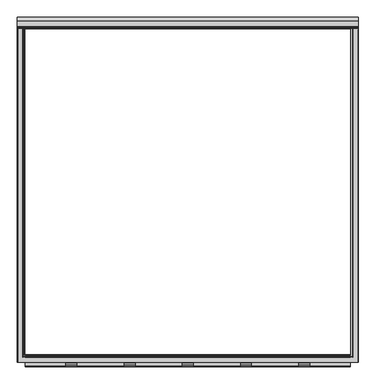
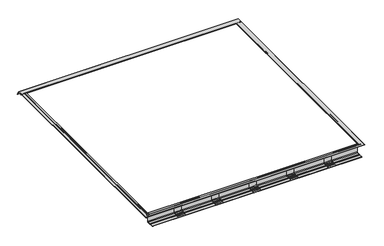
"""IFC4 building model written with IfcOpenShell, lengths in millimetres: fastener geometry."""

from ifc_helpers import new_model, si_unit, point, frame, frame_2d, origin, place, context, project, spatial, polyline, circle_curve, ellipse_curve, trimmed, segment, composite_curve, outline, extrude, source, transform, mapped, element, save
from ifc_brep_helpers import plane_surface, cylinder_surface, revolved_surface, advanced_brep


def fastener_0c583152(model_context):
    return source(origin(), model_context, "Body", "SolidModel", [
        extrude(outline(composite_curve([segment(trimmed(circle_curve(frame_2d((-1145.5700599, -106.5625171)), 7.5509517), [point((-1138.0191082, -106.5625171))], [point((-1145.5700599, -114.1134688))], False, "CARTESIAN"), True, "CONTINUOUS"), segment(polyline([(-1145.5700599, -114.1134688), (-1177.5500422, -114.1134688)]), True, "CONTINUOUS"), segment(trimmed(circle_curve(frame_2d((-1177.2863618, -113.0574024)), 1.0884868), [point((-1177.5500422, -114.1134688))], [point((-1178.0560382, -112.2877259))], False, "CARTESIAN"), True, "CONTINUOUS"), segment(polyline([(-1178.0560382, -112.2877259), (-1176.7465916, -110.9782793)]), True, "CONTINUOUS"), segment(trimmed(circle_curve(frame_2d((-1177.516268, -110.2086029)), 1.0884868), [point((-1176.7465916, -110.9782793))], [point((-1176.911598, -109.3035184))], True, "CARTESIAN"), True, "CONTINUOUS"), segment(polyline([(-1176.911598, -109.3035184), (-1186.4250513, -109.3035184)]), True, "CONTINUOUS"), segment(trimmed(circle_curve(frame_2d((-1185.8203813, -110.2086029)), 1.0884868), [point((-1186.4250513, -109.3035184))], [point((-1186.5900578, -110.9782793))], True, "CARTESIAN"), True, "CONTINUOUS"), segment(polyline([(-1186.5900578, -110.9782793), (-1185.2806111, -112.2877259)]), True, "CONTINUOUS"), segment(trimmed(circle_curve(frame_2d((-1186.0502876, -113.0574024)), 1.0884868), [point((-1185.2806111, -112.2877259))], [point((-1185.7866071, -114.1134688))], False, "CARTESIAN"), True, "CONTINUOUS"), segment(polyline([(-1185.7866071, -114.1134688), (-1219.2, -114.1134688)]), True, "CONTINUOUS"), segment(trimmed(circle_curve(frame_2d((-1211.6858077, -113.381073)), 7.5498006), [point((-1219.2, -114.1134688))], [point((-1211.6858077, -105.8312724))], False, "CARTESIAN"), True, "CONTINUOUS"), segment(polyline([(-1211.6858077, -105.8312724), (-1195.9627839, -105.8312724)]), True, "CONTINUOUS"), segment(trimmed(circle_curve(frame_2d((-1195.8562589, -101.8549)), 3.977799), [point((-1195.9627839, -105.8312724))], [point((-1193.0435303, -104.6676287))], True, "CARTESIAN"), True, "CONTINUOUS"), segment(polyline([(-1193.0435303, -104.6676287), (-1190.9210407, -102.5451392)]), True, "CONTINUOUS"), segment(trimmed(circle_curve(frame_2d((-1188.1083121, -105.3578678)), 3.977799), [point((-1190.9210407, -102.5451392))], [point((-1188.0183247, -101.3810868))], False, "CARTESIAN"), True, "CONTINUOUS"), segment(polyline([(-1188.0183247, -101.3810868), (-1175.3183247, -101.3810868)]), True, "CONTINUOUS"), segment(trimmed(circle_curve(frame_2d((-1175.2283372, -105.3578678)), 3.977799), [point((-1175.3183247, -101.3810868))], [point((-1172.4156086, -102.5451392))], False, "CARTESIAN"), True, "CONTINUOUS"), segment(polyline([(-1172.4156086, -102.5451392), (-1170.2931191, -104.6676287)]), True, "CONTINUOUS"), segment(trimmed(circle_curve(frame_2d((-1167.4803904, -101.8549)), 3.977799), [point((-1170.2931191, -104.6676287))], [point((-1167.3738655, -105.8312724))], True, "CARTESIAN"), True, "CONTINUOUS"), segment(polyline([(-1167.3738655, -105.8312724), (-1150.9842926, -105.8312724)]), True, "CONTINUOUS"), segment(trimmed(circle_curve(frame_2d((-1150.2040874, -100.0486898)), 5.8349791), [point((-1150.9842926, -105.8312724))], [point((-1144.3691082, -100.0486898))], True, "CARTESIAN"), True, "CONTINUOUS"), segment(polyline([(-1144.3691082, -100.0486898), (-1144.3691082, -41.4750171), (-1138.0191082, -41.4750171), (-1138.0191082, -106.5625171)]), True, "CONTINUOUS")], self_intersect=False)), frame((774.7, 0.0, 0.0), z_axis=(1.0, 0.0, 0.0), x_axis=(0.0, 1.0, 0.0)), (0.0, 0.0, 1.0), 76.2),
        extrude(outline(composite_curve([segment(trimmed(circle_curve(frame_2d((-1145.5700599, -106.5625171)), 7.5509517), [point((-1138.0191082, -106.5625171))], [point((-1145.5700599, -114.1134688))], False, "CARTESIAN"), True, "CONTINUOUS"), segment(polyline([(-1145.5700599, -114.1134688), (-1177.5500422, -114.1134688)]), True, "CONTINUOUS"), segment(trimmed(circle_curve(frame_2d((-1177.2863618, -113.0574024)), 1.0884868), [point((-1177.5500422, -114.1134688))], [point((-1178.0560382, -112.2877259))], False, "CARTESIAN"), True, "CONTINUOUS"), segment(polyline([(-1178.0560382, -112.2877259), (-1176.7465916, -110.9782793)]), True, "CONTINUOUS"), segment(trimmed(circle_curve(frame_2d((-1177.516268, -110.2086029)), 1.0884868), [point((-1176.7465916, -110.9782793))], [point((-1176.911598, -109.3035184))], True, "CARTESIAN"), True, "CONTINUOUS"), segment(polyline([(-1176.911598, -109.3035184), (-1186.4250513, -109.3035184)]), True, "CONTINUOUS"), segment(trimmed(circle_curve(frame_2d((-1185.8203813, -110.2086029)), 1.0884868), [point((-1186.4250513, -109.3035184))], [point((-1186.5900578, -110.9782793))], True, "CARTESIAN"), True, "CONTINUOUS"), segment(polyline([(-1186.5900578, -110.9782793), (-1185.2806111, -112.2877259)]), True, "CONTINUOUS"), segment(trimmed(circle_curve(frame_2d((-1186.0502876, -113.0574024)), 1.0884868), [point((-1185.2806111, -112.2877259))], [point((-1185.7866071, -114.1134688))], False, "CARTESIAN"), True, "CONTINUOUS"), segment(polyline([(-1185.7866071, -114.1134688), (-1219.2, -114.1134688)]), True, "CONTINUOUS"), segment(trimmed(circle_curve(frame_2d((-1211.6858077, -113.381073)), 7.5498006), [point((-1219.2, -114.1134688))], [point((-1211.6858077, -105.8312724))], False, "CARTESIAN"), True, "CONTINUOUS"), segment(polyline([(-1211.6858077, -105.8312724), (-1195.9627839, -105.8312724)]), True, "CONTINUOUS"), segment(trimmed(circle_curve(frame_2d((-1195.8562589, -101.8549)), 3.977799), [point((-1195.9627839, -105.8312724))], [point((-1193.0435303, -104.6676287))], True, "CARTESIAN"), True, "CONTINUOUS"), segment(polyline([(-1193.0435303, -104.6676287), (-1190.9210407, -102.5451392)]), True, "CONTINUOUS"), segment(trimmed(circle_curve(frame_2d((-1188.1083121, -105.3578678)), 3.977799), [point((-1190.9210407, -102.5451392))], [point((-1188.0183247, -101.3810868))], False, "CARTESIAN"), True, "CONTINUOUS"), segment(polyline([(-1188.0183247, -101.3810868), (-1175.3183247, -101.3810868)]), True, "CONTINUOUS"), segment(trimmed(circle_curve(frame_2d((-1175.2283372, -105.3578678)), 3.977799), [point((-1175.3183247, -101.3810868))], [point((-1172.4156086, -102.5451392))], False, "CARTESIAN"), True, "CONTINUOUS"), segment(polyline([(-1172.4156086, -102.5451392), (-1170.2931191, -104.6676287)]), True, "CONTINUOUS"), segment(trimmed(circle_curve(frame_2d((-1167.4803904, -101.8549)), 3.977799), [point((-1170.2931191, -104.6676287))], [point((-1167.3738655, -105.8312724))], True, "CARTESIAN"), True, "CONTINUOUS"), segment(polyline([(-1167.3738655, -105.8312724), (-1150.9842926, -105.8312724)]), True, "CONTINUOUS"), segment(trimmed(circle_curve(frame_2d((-1150.2040874, -100.0486898)), 5.8349791), [point((-1150.9842926, -105.8312724))], [point((-1144.3691082, -100.0486898))], True, "CARTESIAN"), True, "CONTINUOUS"), segment(polyline([(-1144.3691082, -100.0486898), (-1144.3691082, -41.4750171), (-1138.0191082, -41.4750171), (-1138.0191082, -106.5625171)]), True, "CONTINUOUS")], self_intersect=False)), frame((-850.9, 0.0, 0.0), z_axis=(1.0, 0.0, 0.0), x_axis=(0.0, 1.0, 0.0)), (0.0, 0.0, 1.0), 76.2),
        extrude(outline(composite_curve([segment(trimmed(circle_curve(frame_2d((-1145.5700599, -106.5625171)), 7.5509517), [point((-1138.0191082, -106.5625171))], [point((-1145.5700599, -114.1134688))], False, "CARTESIAN"), True, "CONTINUOUS"), segment(polyline([(-1145.5700599, -114.1134688), (-1177.5500422, -114.1134688)]), True, "CONTINUOUS"), segment(trimmed(circle_curve(frame_2d((-1177.2863618, -113.0574024)), 1.0884868), [point((-1177.5500422, -114.1134688))], [point((-1178.0560382, -112.2877259))], False, "CARTESIAN"), True, "CONTINUOUS"), segment(polyline([(-1178.0560382, -112.2877259), (-1176.7465916, -110.9782793)]), True, "CONTINUOUS"), segment(trimmed(circle_curve(frame_2d((-1177.516268, -110.2086029)), 1.0884868), [point((-1176.7465916, -110.9782793))], [point((-1176.911598, -109.3035184))], True, "CARTESIAN"), True, "CONTINUOUS"), segment(polyline([(-1176.911598, -109.3035184), (-1186.4250513, -109.3035184)]), True, "CONTINUOUS"), segment(trimmed(circle_curve(frame_2d((-1185.8203813, -110.2086029)), 1.0884868), [point((-1186.4250513, -109.3035184))], [point((-1186.5900578, -110.9782793))], True, "CARTESIAN"), True, "CONTINUOUS"), segment(polyline([(-1186.5900578, -110.9782793), (-1185.2806111, -112.2877259)]), True, "CONTINUOUS"), segment(trimmed(circle_curve(frame_2d((-1186.0502876, -113.0574024)), 1.0884868), [point((-1185.2806111, -112.2877259))], [point((-1185.7866071, -114.1134688))], False, "CARTESIAN"), True, "CONTINUOUS"), segment(polyline([(-1185.7866071, -114.1134688), (-1219.2, -114.1134688)]), True, "CONTINUOUS"), segment(trimmed(circle_curve(frame_2d((-1211.6858077, -113.381073)), 7.5498006), [point((-1219.2, -114.1134688))], [point((-1211.6858077, -105.8312724))], False, "CARTESIAN"), True, "CONTINUOUS"), segment(polyline([(-1211.6858077, -105.8312724), (-1195.9627839, -105.8312724)]), True, "CONTINUOUS"), segment(trimmed(circle_curve(frame_2d((-1195.8562589, -101.8549)), 3.977799), [point((-1195.9627839, -105.8312724))], [point((-1193.0435303, -104.6676287))], True, "CARTESIAN"), True, "CONTINUOUS"), segment(polyline([(-1193.0435303, -104.6676287), (-1190.9210407, -102.5451392)]), True, "CONTINUOUS"), segment(trimmed(circle_curve(frame_2d((-1188.1083121, -105.3578678)), 3.977799), [point((-1190.9210407, -102.5451392))], [point((-1188.0183247, -101.3810868))], False, "CARTESIAN"), True, "CONTINUOUS"), segment(polyline([(-1188.0183247, -101.3810868), (-1175.3183247, -101.3810868)]), True, "CONTINUOUS"), segment(trimmed(circle_curve(frame_2d((-1175.2283372, -105.3578678)), 3.977799), [point((-1175.3183247, -101.3810868))], [point((-1172.4156086, -102.5451392))], False, "CARTESIAN"), True, "CONTINUOUS"), segment(polyline([(-1172.4156086, -102.5451392), (-1170.2931191, -104.6676287)]), True, "CONTINUOUS"), segment(trimmed(circle_curve(frame_2d((-1167.4803904, -101.8549)), 3.977799), [point((-1170.2931191, -104.6676287))], [point((-1167.3738655, -105.8312724))], True, "CARTESIAN"), True, "CONTINUOUS"), segment(polyline([(-1167.3738655, -105.8312724), (-1150.9842926, -105.8312724)]), True, "CONTINUOUS"), segment(trimmed(circle_curve(frame_2d((-1150.2040874, -100.0486898)), 5.8349791), [point((-1150.9842926, -105.8312724))], [point((-1144.3691082, -100.0486898))], True, "CARTESIAN"), True, "CONTINUOUS"), segment(polyline([(-1144.3691082, -100.0486898), (-1144.3691082, -41.4750171), (-1138.0191082, -41.4750171), (-1138.0191082, -106.5625171)]), True, "CONTINUOUS")], self_intersect=False)), frame((-444.5, 0.0, 0.0), z_axis=(1.0, 0.0, 0.0), x_axis=(0.0, 1.0, 0.0)), (0.0, 0.0, 1.0), 76.2),
        extrude(outline(composite_curve([segment(trimmed(circle_curve(frame_2d((-1145.5700599, -106.5625171)), 7.5509517), [point((-1138.0191082, -106.5625171))], [point((-1145.5700599, -114.1134688))], False, "CARTESIAN"), True, "CONTINUOUS"), segment(polyline([(-1145.5700599, -114.1134688), (-1177.5500422, -114.1134688)]), True, "CONTINUOUS"), segment(trimmed(circle_curve(frame_2d((-1177.2863618, -113.0574024)), 1.0884868), [point((-1177.5500422, -114.1134688))], [point((-1178.0560382, -112.2877259))], False, "CARTESIAN"), True, "CONTINUOUS"), segment(polyline([(-1178.0560382, -112.2877259), (-1176.7465916, -110.9782793)]), True, "CONTINUOUS"), segment(trimmed(circle_curve(frame_2d((-1177.516268, -110.2086029)), 1.0884868), [point((-1176.7465916, -110.9782793))], [point((-1176.911598, -109.3035184))], True, "CARTESIAN"), True, "CONTINUOUS"), segment(polyline([(-1176.911598, -109.3035184), (-1186.4250513, -109.3035184)]), True, "CONTINUOUS"), segment(trimmed(circle_curve(frame_2d((-1185.8203813, -110.2086029)), 1.0884868), [point((-1186.4250513, -109.3035184))], [point((-1186.5900578, -110.9782793))], True, "CARTESIAN"), True, "CONTINUOUS"), segment(polyline([(-1186.5900578, -110.9782793), (-1185.2806111, -112.2877259)]), True, "CONTINUOUS"), segment(trimmed(circle_curve(frame_2d((-1186.0502876, -113.0574024)), 1.0884868), [point((-1185.2806111, -112.2877259))], [point((-1185.7866071, -114.1134688))], False, "CARTESIAN"), True, "CONTINUOUS"), segment(polyline([(-1185.7866071, -114.1134688), (-1219.2, -114.1134688)]), True, "CONTINUOUS"), segment(trimmed(circle_curve(frame_2d((-1211.6858077, -113.381073)), 7.5498006), [point((-1219.2, -114.1134688))], [point((-1211.6858077, -105.8312724))], False, "CARTESIAN"), True, "CONTINUOUS"), segment(polyline([(-1211.6858077, -105.8312724), (-1195.9627839, -105.8312724)]), True, "CONTINUOUS"), segment(trimmed(circle_curve(frame_2d((-1195.8562589, -101.8549)), 3.977799), [point((-1195.9627839, -105.8312724))], [point((-1193.0435303, -104.6676287))], True, "CARTESIAN"), True, "CONTINUOUS"), segment(polyline([(-1193.0435303, -104.6676287), (-1190.9210407, -102.5451392)]), True, "CONTINUOUS"), segment(trimmed(circle_curve(frame_2d((-1188.1083121, -105.3578678)), 3.977799), [point((-1190.9210407, -102.5451392))], [point((-1188.0183247, -101.3810868))], False, "CARTESIAN"), True, "CONTINUOUS"), segment(polyline([(-1188.0183247, -101.3810868), (-1175.3183247, -101.3810868)]), True, "CONTINUOUS"), segment(trimmed(circle_curve(frame_2d((-1175.2283372, -105.3578678)), 3.977799), [point((-1175.3183247, -101.3810868))], [point((-1172.4156086, -102.5451392))], False, "CARTESIAN"), True, "CONTINUOUS"), segment(polyline([(-1172.4156086, -102.5451392), (-1170.2931191, -104.6676287)]), True, "CONTINUOUS"), segment(trimmed(circle_curve(frame_2d((-1167.4803904, -101.8549)), 3.977799), [point((-1170.2931191, -104.6676287))], [point((-1167.3738655, -105.8312724))], True, "CARTESIAN"), True, "CONTINUOUS"), segment(polyline([(-1167.3738655, -105.8312724), (-1150.9842926, -105.8312724)]), True, "CONTINUOUS"), segment(trimmed(circle_curve(frame_2d((-1150.2040874, -100.0486898)), 5.8349791), [point((-1150.9842926, -105.8312724))], [point((-1144.3691082, -100.0486898))], True, "CARTESIAN"), True, "CONTINUOUS"), segment(polyline([(-1144.3691082, -100.0486898), (-1144.3691082, -41.4750171), (-1138.0191082, -41.4750171), (-1138.0191082, -106.5625171)]), True, "CONTINUOUS")], self_intersect=False)), frame((368.3, 0.0, 0.0), z_axis=(1.0, 0.0, 0.0), x_axis=(0.0, 1.0, 0.0)), (0.0, 0.0, 1.0), 76.2),
        extrude(outline(composite_curve([segment(trimmed(circle_curve(frame_2d((-1145.5700599, -106.5625171)), 7.5509517), [point((-1138.0191082, -106.5625171))], [point((-1145.5700599, -114.1134688))], False, "CARTESIAN"), True, "CONTINUOUS"), segment(polyline([(-1145.5700599, -114.1134688), (-1177.5500422, -114.1134688)]), True, "CONTINUOUS"), segment(trimmed(circle_curve(frame_2d((-1177.2863618, -113.0574024)), 1.0884868), [point((-1177.5500422, -114.1134688))], [point((-1178.0560382, -112.2877259))], False, "CARTESIAN"), True, "CONTINUOUS"), segment(polyline([(-1178.0560382, -112.2877259), (-1176.7465916, -110.9782793)]), True, "CONTINUOUS"), segment(trimmed(circle_curve(frame_2d((-1177.516268, -110.2086029)), 1.0884868), [point((-1176.7465916, -110.9782793))], [point((-1176.911598, -109.3035184))], True, "CARTESIAN"), True, "CONTINUOUS"), segment(polyline([(-1176.911598, -109.3035184), (-1186.4250513, -109.3035184)]), True, "CONTINUOUS"), segment(trimmed(circle_curve(frame_2d((-1185.8203813, -110.2086029)), 1.0884868), [point((-1186.4250513, -109.3035184))], [point((-1186.5900578, -110.9782793))], True, "CARTESIAN"), True, "CONTINUOUS"), segment(polyline([(-1186.5900578, -110.9782793), (-1185.2806111, -112.2877259)]), True, "CONTINUOUS"), segment(trimmed(circle_curve(frame_2d((-1186.0502876, -113.0574024)), 1.0884868), [point((-1185.2806111, -112.2877259))], [point((-1185.7866071, -114.1134688))], False, "CARTESIAN"), True, "CONTINUOUS"), segment(polyline([(-1185.7866071, -114.1134688), (-1219.2, -114.1134688)]), True, "CONTINUOUS"), segment(trimmed(circle_curve(frame_2d((-1211.6858077, -113.381073)), 7.5498006), [point((-1219.2, -114.1134688))], [point((-1211.6858077, -105.8312724))], False, "CARTESIAN"), True, "CONTINUOUS"), segment(polyline([(-1211.6858077, -105.8312724), (-1195.9627839, -105.8312724)]), True, "CONTINUOUS"), segment(trimmed(circle_curve(frame_2d((-1195.8562589, -101.8549)), 3.977799), [point((-1195.9627839, -105.8312724))], [point((-1193.0435303, -104.6676287))], True, "CARTESIAN"), True, "CONTINUOUS"), segment(polyline([(-1193.0435303, -104.6676287), (-1190.9210407, -102.5451392)]), True, "CONTINUOUS"), segment(trimmed(circle_curve(frame_2d((-1188.1083121, -105.3578678)), 3.977799), [point((-1190.9210407, -102.5451392))], [point((-1188.0183247, -101.3810868))], False, "CARTESIAN"), True, "CONTINUOUS"), segment(polyline([(-1188.0183247, -101.3810868), (-1175.3183247, -101.3810868)]), True, "CONTINUOUS"), segment(trimmed(circle_curve(frame_2d((-1175.2283372, -105.3578678)), 3.977799), [point((-1175.3183247, -101.3810868))], [point((-1172.4156086, -102.5451392))], False, "CARTESIAN"), True, "CONTINUOUS"), segment(polyline([(-1172.4156086, -102.5451392), (-1170.2931191, -104.6676287)]), True, "CONTINUOUS"), segment(trimmed(circle_curve(frame_2d((-1167.4803904, -101.8549)), 3.977799), [point((-1170.2931191, -104.6676287))], [point((-1167.3738655, -105.8312724))], True, "CARTESIAN"), True, "CONTINUOUS"), segment(polyline([(-1167.3738655, -105.8312724), (-1150.9842926, -105.8312724)]), True, "CONTINUOUS"), segment(trimmed(circle_curve(frame_2d((-1150.2040874, -100.0486898)), 5.8349791), [point((-1150.9842926, -105.8312724))], [point((-1144.3691082, -100.0486898))], True, "CARTESIAN"), True, "CONTINUOUS"), segment(polyline([(-1144.3691082, -100.0486898), (-1144.3691082, -41.4750171), (-1138.0191082, -41.4750171), (-1138.0191082, -106.5625171)]), True, "CONTINUOUS")], self_intersect=False)), frame((-38.1, 0.0, 0.0), z_axis=(1.0, 0.0, 0.0), x_axis=(0.0, 1.0, 0.0)), (0.0, 0.0, 1.0), 76.2),
        extrude(outline(composite_curve([segment(polyline([(-1135.3165, -15.1804688), (-1135.3165, -116.7804688), (-1217.8665, -116.7804688)]), True, "CONTINUOUS"), segment(trimmed(circle_curve(frame_2d((-1217.8665, -115.4469688)), 1.3335), [point((-1217.8665, -116.7804688))], [point((-1217.8665, -114.1134688))], False, "CARTESIAN"), True, "CONTINUOUS"), segment(polyline([(-1217.8665, -114.1134688), (-1185.7509989, -114.1134688)]), True, "CONTINUOUS"), segment(trimmed(circle_curve(frame_2d((-1186.0146793, -113.0574024)), 1.0884868), [point((-1185.7509989, -114.1134688))], [point((-1185.2450029, -112.2877259))], True, "CARTESIAN"), True, "CONTINUOUS"), segment(polyline([(-1185.2450029, -112.2877259), (-1186.5544495, -110.9782793)]), True, "CONTINUOUS"), segment(trimmed(circle_curve(frame_2d((-1185.7847731, -110.2086029)), 1.0884868), [point((-1186.5544495, -110.9782793))], [point((-1186.389443, -109.3035184))], False, "CARTESIAN"), True, "CONTINUOUS"), segment(polyline([(-1186.389443, -109.3035184), (-1176.8759898, -109.3035184)]), True, "CONTINUOUS"), segment(trimmed(circle_curve(frame_2d((-1177.4806597, -110.2086029)), 1.0884868), [point((-1176.8759898, -109.3035184))], [point((-1176.7109833, -110.9782793))], False, "CARTESIAN"), True, "CONTINUOUS"), segment(polyline([(-1176.7109833, -110.9782793), (-1178.0204299, -112.2877259)]), True, "CONTINUOUS"), segment(trimmed(circle_curve(frame_2d((-1177.2507535, -113.0574024)), 1.0884868), [point((-1178.0204299, -112.2877259))], [point((-1177.5144339, -114.1134688))], True, "CARTESIAN"), True, "CONTINUOUS"), segment(polyline([(-1177.5144339, -114.1134688), (-1145.5344517, -114.1134688)]), True, "CONTINUOUS"), segment(trimmed(circle_curve(frame_2d((-1145.5344517, -106.5625171)), 7.5509517), [point((-1145.5344517, -114.1134688))], [point((-1137.9835, -106.5625171))], True, "CARTESIAN"), True, "CONTINUOUS"), segment(polyline([(-1137.9835, -106.5625171), (-1137.9835, -21.87801), (-1156.2117258, -21.87801), (-1156.2117258, -15.1804688), (-1152.1178999, -15.1804688)]), True, "CONTINUOUS"), segment(trimmed(circle_curve(frame_2d((-1152.8274757, -16.2725079)), 1.3023238), [point((-1152.1178999, -15.1804688))], [point((-1151.9131963, -17.1999455))], False, "CARTESIAN"), True, "CONTINUOUS"), segment(polyline([(-1151.9131963, -17.1999455), (-1152.9649499, -18.2679836)]), True, "CONTINUOUS"), segment(trimmed(circle_curve(frame_2d((-1152.5091166, -18.6293281)), 0.5816819), [point((-1152.9649499, -18.2679836))], [point((-1152.5091166, -19.21101))], True, "CARTESIAN"), True, "CONTINUOUS"), segment(polyline([(-1152.5091166, -19.21101), (-1140.8594568, -19.21101)]), True, "CONTINUOUS"), segment(trimmed(circle_curve(frame_2d((-1140.8594568, -18.6130003)), 0.5980097), [point((-1140.8594568, -19.21101))], [point((-1140.3710112, -18.2679836))], True, "CARTESIAN"), True, "CONTINUOUS"), segment(polyline([(-1140.3710112, -18.2679836), (-1141.460117, -17.1999455)]), True, "CONTINUOUS"), segment(trimmed(circle_curve(frame_2d((-1140.5022273, -16.284676)), 1.3248664), [point((-1141.460117, -17.1999455))], [point((-1141.2343456, -15.1804688))], False, "CARTESIAN"), True, "CONTINUOUS"), segment(polyline([(-1141.2343456, -15.1804688), (-1135.3165, -15.1804688)]), True, "CONTINUOUS")], self_intersect=False)), frame((-1135.3165, 0.0, 0.0), z_axis=(1.0, 0.0, 0.0), x_axis=(0.0, 1.0, 0.0)), (0.0, 0.0, 1.0), 2270.633),
        advanced_brep(
        [(-1189.1053092, 1141.2343456, -15.1685625), (-1189.1053092, 1135.3165, -15.1685625), (-1189.1053092, 1135.3165, -13.8350625), (-1189.1053092, 1135.3165, -12.5015625), (-1189.1053092, 1190.6451024, -12.5015625), (-1189.1053092, 1217.7515464, -59.4513008), (-1189.1053092, 1215.4418567, -60.7848008), (-1189.1053092, 1189.1053092, -15.1685625), (-1189.1053092, 1161.8308783, -15.1685625), (-1189.1053092, 1159.573508, -17.4259327), (-1189.1053092, 1159.573508, -26.7633474), (-1189.1053092, 1149.6719492, -26.7633474), (-1189.1053092, 1149.6719492, -24.7662067), (-1189.1053092, 1150.5032605, -24.7662067), (-1189.1053092, 1151.5117177, -23.7577495), (-1189.1053092, 1151.5117177, -21.8661038), (-1189.1053092, 1156.2117258, -21.8661038), (-1189.1053092, 1156.2117258, -15.1685625), (-1189.1053092, 1152.1178999, -15.1685625), (-1189.1053092, 1151.9131963, -17.2095918), (-1189.1053092, 1152.9812344, -18.2776299), (-1189.1053092, 1152.5091166, -19.1991038), (-1189.1053092, 1140.8431289, -19.1991038), (-1189.1053092, 1140.3710112, -18.2776299), (-1189.1053092, 1141.4390493, -17.2095918), (1189.1053092, 1141.2343456, -15.1685625), (1189.1053092, 1141.4390493, -17.2095918), (1189.1053092, 1140.3710112, -18.2776299), (1189.1053092, 1140.8431289, -19.1991038), (1189.1053092, 1152.5091166, -19.1991038), (1189.1053092, 1152.9812344, -18.2776299), (1189.1053092, 1151.9131963, -17.2095918), (1189.1053092, 1152.1178999, -15.1685625), (1189.1053092, 1156.2117258, -15.1685625), (1189.1053092, 1156.2117258, -21.8661038), (1189.1053092, 1151.5117177, -21.8661038), (1189.1053092, 1151.5117177, -23.7577495), (1189.1053092, 1150.5032605, -24.7662067), (1189.1053092, 1149.6719492, -24.7662067), (1189.1053092, 1149.6719492, -26.7633474), (1189.1053092, 1159.573508, -26.7633474), (1189.1053092, 1159.573508, -17.4259327), (1189.1053092, 1161.8308783, -15.1685625), (1189.1053092, 1189.1053092, -15.1685625), (1189.1053092, 1215.4418567, -60.7848008), (1189.1053092, 1217.7515464, -59.4513008), (1189.1053092, 1190.6451024, -12.5015625), (1189.1053092, 1135.3165, -12.5015625), (1189.1053092, 1135.3165, -13.8350625), (1189.1053092, 1135.3165, -15.1685625), (1187.7718092, 1135.3165, -15.1685625), (1187.7718092, -1187.7718092, -15.1685625), (-1187.7718092, -1187.7718092, -15.1685625), (-1187.7718092, 1135.3165, -15.1685625), (1135.3165, 1135.3165, -15.1685625), (-1135.3165, 1135.3165, -15.1685625), (-1135.3165, -1135.3165, -15.1685625), (1135.3165, -1135.3165, -15.1685625), (-1141.2160631, 1135.3165, -15.1685625), (-1152.1361825, 1135.3165, -15.1685625), (-1152.1361825, -1152.1361825, -15.1685625), (1152.1361825, -1152.1361825, -15.1685625), (1152.1361825, 1135.3165, -15.1685625), (1141.2160631, 1135.3165, -15.1685625), (1141.2160631, -1141.2160631, -15.1685625), (-1141.2160631, -1141.2160631, -15.1685625), (-1156.2117258, 1135.3165, -15.1685625), (-1161.8308783, 1135.3165, -15.1685625), (-1161.8308783, -1161.8308783, -15.1685625), (1161.8308783, -1161.8308783, -15.1685625), (1161.8308783, 1135.3165, -15.1685625), (1156.2117258, 1135.3165, -15.1685625), (1156.2117258, -1156.2117258, -15.1685625), (-1156.2117258, -1156.2117258, -15.1685625), (-1187.7718092, 1135.3165, -12.5015625), (1187.7718092, 1135.3165, -12.5015625), (1135.3165, 1135.3165, -12.5015625), (-1135.3165, 1135.3165, -12.5015625), (-1187.7718092, -1187.7718092, -12.5015625), (1187.7718092, -1187.7718092, -12.5015625), (1135.3165, -1135.3165, -12.5015625), (-1135.3165, -1135.3165, -12.5015625), (-1141.4390493, 1135.3165, -17.221498), (-1140.3710112, 1135.3165, -18.2895361), (-1140.8431289, 1135.3165, -19.21101), (-1152.5091166, 1135.3165, -19.21101), (-1152.9812344, 1135.3165, -18.2895361), (-1151.9131963, 1135.3165, -17.221498), (-1156.2117258, 1135.3165, -21.87801), (-1151.5117177, 1135.3165, -21.87801), (-1151.5117177, 1135.3165, -23.7696558), (-1150.5032605, 1135.3165, -24.7781129), (-1149.6719492, 1135.3165, -24.7781129), (-1149.6719492, 1135.3165, -26.7633474), (-1159.573508, 1135.3165, -26.7633474), (-1159.573508, 1135.3165, -17.4259327), (-1141.4390493, -1141.4390493, -17.221498), (-1140.3710112, -1140.3710112, -18.2895361), (-1140.8431289, -1140.8431289, -19.21101), (1140.8431289, -1140.8431289, -19.21101), (1140.8431289, 1135.3165, -19.21101), (1152.5091166, 1135.3165, -19.21101), (1152.5091166, -1152.5091166, -19.21101), (-1152.5091166, -1152.5091166, -19.21101), (-1152.9812344, -1152.9812344, -18.2895361), (-1151.9131963, -1151.9131963, -17.221498), (-1156.2117258, -1156.2117258, -21.87801), (1156.2117258, -1156.2117258, -21.87801), (1156.2117258, 1135.3165, -21.87801), (1151.5117177, 1135.3165, -21.87801), (1151.5117177, -1151.5117177, -21.87801), (-1151.5117177, -1151.5117177, -21.87801), (-1151.5117177, -1151.5117177, -23.7696558), (-1150.5032605, -1150.5032605, -24.7781129), (1150.5032605, -1150.5032605, -24.7781129), (1150.5032605, 1135.3165, -24.7781129), (1149.6719492, 1135.3165, -24.7781129), (1149.6719492, -1149.6719492, -24.7781129), (-1149.6719492, -1149.6719492, -24.7781129), (-1149.6719492, -1149.6719492, -26.7633474), (1149.6719492, -1149.6719492, -26.7633474), (1149.6719492, 1135.3165, -26.7633474), (1159.573508, 1135.3165, -26.7633474), (1159.573508, -1159.573508, -26.7633474), (-1159.573508, -1159.573508, -26.7633474), (-1159.573508, -1159.573508, -17.4259327), (1141.4390493, -1141.4390493, -17.221498), (1140.3710112, -1140.3710112, -18.2895361), (1152.9812344, -1152.9812344, -18.2895361), (1151.9131963, -1151.9131963, -17.221498), (1151.5117177, -1151.5117177, -23.7696558), (1159.573508, -1159.573508, -17.4259327), (1140.3710112, 1135.3165, -18.2895361), (1141.4390493, 1135.3165, -17.221498), (1151.9131963, 1135.3165, -17.221498), (1152.9812344, 1135.3165, -18.2895361), (1159.573508, 1135.3165, -17.4259327), (1151.5117177, 1135.3165, -23.7696558)],
        [
            (0, 1),
            (1, 2),
            (2, 3),
            (3, 4),
            (4, 5),
            (5, 6),
            (6, 7),
            (7, 8),
            (8, 9, circle_curve(frame((-1189.1053092, 1161.8308783, -17.4259327), z_axis=(1.0, 0.0, 0.0), x_axis=(0.0, 1.0, 0.0)), 2.2573702)),
            (9, 10),
            (10, 11),
            (11, 12, circle_curve(frame((-1189.1053092, 1149.6719492, -25.764777), z_axis=(-1.0, 0.0, 0.0), x_axis=(0.0, 1.0, 0.0)), 0.9985703)),
            (12, 13),
            (13, 14, circle_curve(frame((-1189.1053092, 1150.5032605, -23.7577495), z_axis=(1.0, 0.0, 0.0), x_axis=(0.0, 1.0, 0.0)), 1.0084572)),
            (14, 15),
            (15, 16),
            (16, 17),
            (17, 18),
            (18, 19, circle_curve(frame((-1189.1053092, 1152.8500183, -16.2727698), z_axis=(1.0, 0.0, 0.0), x_axis=(0.0, 1.0, 0.0)), 1.3248664)),
            (19, 20),
            (20, 21, circle_curve(frame((-1189.1053092, 1152.5091166, -18.6174219), z_axis=(-1.0, 0.0, 0.0), x_axis=(0.0, 1.0, 0.0)), 0.5816819)),
            (21, 22),
            (22, 23, circle_curve(frame((-1189.1053092, 1140.8431289, -18.6174219), z_axis=(-1.0, 0.0, 0.0), x_axis=(0.0, 1.0, 0.0)), 0.5816819)),
            (23, 24),
            (24, 0, circle_curve(frame((-1189.1053092, 1140.5022273, -16.2727698), z_axis=(1.0, 0.0, 0.0), x_axis=(0.0, 1.0, 0.0)), 1.3248664)),
            (25, 26, circle_curve(frame((1189.1053092, 1140.5022273, -16.2727698), z_axis=(-1.0, 0.0, 0.0), x_axis=(0.0, 1.0, 0.0)), 1.3248664)),
            (26, 27),
            (27, 28, circle_curve(frame((1189.1053092, 1140.8431289, -18.6174219), z_axis=(1.0, 0.0, 0.0), x_axis=(0.0, 1.0, 0.0)), 0.5816819)),
            (28, 29),
            (29, 30, circle_curve(frame((1189.1053092, 1152.5091166, -18.6174219), z_axis=(1.0, 0.0, 0.0), x_axis=(0.0, 1.0, 0.0)), 0.5816819)),
            (30, 31),
            (31, 32, circle_curve(frame((1189.1053092, 1152.8500183, -16.2727698), z_axis=(-1.0, 0.0, 0.0), x_axis=(0.0, 1.0, 0.0)), 1.3248664)),
            (32, 33),
            (33, 34),
            (34, 35),
            (35, 36),
            (36, 37, circle_curve(frame((1189.1053092, 1150.5032605, -23.7577495), z_axis=(-1.0, 0.0, 0.0), x_axis=(0.0, 1.0, 0.0)), 1.0084572)),
            (37, 38),
            (38, 39, circle_curve(frame((1189.1053092, 1149.6719492, -25.764777), z_axis=(1.0, 0.0, 0.0), x_axis=(0.0, 1.0, 0.0)), 0.9985703)),
            (39, 40),
            (40, 41),
            (41, 42, circle_curve(frame((1189.1053092, 1161.8308783, -17.4259327), z_axis=(-1.0, 0.0, 0.0), x_axis=(0.0, 1.0, 0.0)), 2.2573702)),
            (42, 43),
            (43, 44),
            (44, 45),
            (45, 46),
            (46, 47),
            (47, 48),
            (48, 49),
            (49, 25),
            (0, 25),
            (49, 50),
            (50, 51),
            (51, 52),
            (52, 53),
            (53, 1),
            (54, 55),
            (55, 56),
            (56, 57),
            (57, 54),
            (58, 59),
            (59, 60),
            (60, 61),
            (61, 62),
            (62, 63),
            (63, 64),
            (64, 65),
            (65, 58),
            (66, 67),
            (67, 68),
            (68, 69),
            (69, 70),
            (70, 71),
            (71, 72),
            (72, 73),
            (73, 66),
            (53, 2, circle_curve(frame((-1187.7718092, 1135.3165, -13.8350625), z_axis=(0.0, 1.0, 0.0), x_axis=(1.0, 0.0, 0.0)), 1.3335)),
            (2, 74, circle_curve(frame((-1187.7718092, 1135.3165, -13.8350625), z_axis=(0.0, 1.0, 0.0), x_axis=(1.0, 0.0, 0.0)), 1.3335)),
            (74, 3),
            (47, 75),
            (75, 48, circle_curve(frame((1187.7718092, 1135.3165, -13.8350625), z_axis=(0.0, 1.0, 0.0), x_axis=(-1.0, 0.0, 0.0)), 1.3335)),
            (48, 50, circle_curve(frame((1187.7718092, 1135.3165, -13.8350625), z_axis=(0.0, 1.0, 0.0), x_axis=(-1.0, 0.0, 0.0)), 1.3335)),
            (54, 76),
            (76, 77),
            (77, 55),
            (74, 78),
            (78, 79),
            (79, 75),
            (46, 4),
            (76, 80),
            (80, 81),
            (81, 77),
            (45, 5),
            (44, 6),
            (43, 7),
            (42, 8),
            (41, 9),
            (40, 10),
            (39, 11),
            (38, 12),
            (37, 13),
            (36, 14),
            (35, 15),
            (34, 16),
            (33, 17),
            (32, 18),
            (19, 31),
            (30, 20),
            (29, 21),
            (28, 22),
            (27, 23),
            (26, 24),
            (58, 82, circle_curve(frame((-1140.5022273, 1135.3165, -16.284676), z_axis=(0.0, -1.0, 0.0), x_axis=(1.0, 0.0, 0.0)), 1.3248664)),
            (82, 83),
            (83, 84, circle_curve(frame((-1140.8431289, 1135.3165, -18.6293281), z_axis=(0.0, 1.0, 0.0), x_axis=(1.0, 0.0, 0.0)), 0.5816819)),
            (84, 85),
            (85, 86, circle_curve(frame((-1152.5091166, 1135.3165, -18.6293281), z_axis=(0.0, 1.0, 0.0), x_axis=(1.0, 0.0, 0.0)), 0.5816819)),
            (86, 87),
            (87, 59, circle_curve(frame((-1152.8500183, 1135.3165, -16.284676), z_axis=(0.0, -1.0, 0.0), x_axis=(1.0, 0.0, 0.0)), 1.3248664)),
            (66, 88),
            (88, 89),
            (89, 90),
            (90, 91, circle_curve(frame((-1150.5032605, 1135.3165, -23.7696558), z_axis=(0.0, -1.0, 0.0), x_axis=(1.0, 0.0, 0.0)), 1.0084572)),
            (91, 92),
            (92, 93, circle_curve(frame((-1149.6719492, 1135.3165, -25.7707301), z_axis=(0.0, 1.0, 0.0), x_axis=(1.0, 0.0, 0.0)), 0.9926172)),
            (93, 94),
            (94, 95),
            (95, 67, circle_curve(frame((-1161.8308783, 1135.3165, -17.4259327), z_axis=(0.0, -1.0, 0.0), x_axis=(1.0, 0.0, 0.0)), 2.2573702)),
            (65, 96, ellipse_curve(frame((-1140.5022273, -1140.5022273, -16.284676), z_axis=(0.7071067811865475, -0.7071067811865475, 0.0), x_axis=(-0.7071067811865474, -0.7071067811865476, 0.0)), 1.873644, 1.3248664)),
            (96, 82),
            (96, 97),
            (97, 83),
            (97, 98, ellipse_curve(frame((-1140.8431289, -1140.8431289, -18.6293281), z_axis=(-0.7071067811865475, 0.7071067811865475, 0.0), x_axis=(0.7071067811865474, 0.7071067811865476, 0.0)), 0.8226224, 0.5816819)),
            (98, 84),
            (98, 99),
            (99, 100),
            (100, 101),
            (101, 102),
            (102, 103),
            (103, 85),
            (103, 104, ellipse_curve(frame((-1152.5091166, -1152.5091166, -18.6293281), z_axis=(-0.7071067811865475, 0.7071067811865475, 0.0), x_axis=(0.7071067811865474, 0.7071067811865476, 0.0)), 0.8226224, 0.5816819)),
            (104, 86),
            (104, 105),
            (105, 87),
            (105, 60, ellipse_curve(frame((-1152.8500183, -1152.8500183, -16.284676), z_axis=(0.7071067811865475, -0.7071067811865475, 0.0), x_axis=(-0.7071067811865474, -0.7071067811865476, 0.0)), 1.873644, 1.3248664)),
            (73, 106),
            (106, 88),
            (106, 107),
            (107, 108),
            (108, 109),
            (109, 110),
            (110, 111),
            (111, 89),
            (111, 112),
            (112, 90),
            (112, 113, ellipse_curve(frame((-1150.5032605, -1150.5032605, -23.7696558), z_axis=(0.7071067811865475, -0.7071067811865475, 0.0), x_axis=(-0.7071067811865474, -0.7071067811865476, 0.0)), 1.4261738, 1.0084572)),
            (113, 91),
            (113, 114),
            (114, 115),
            (115, 116),
            (116, 117),
            (117, 118),
            (118, 92),
            (118, 119, ellipse_curve(frame((-1149.6719492, -1149.6719492, -25.7707301), z_axis=(-0.7071067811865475, 0.7071067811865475, 0.0), x_axis=(0.7071067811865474, 0.7071067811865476, 0.0)), 1.4037727, 0.9926172)),
            (119, 93),
            (119, 120),
            (120, 121),
            (121, 122),
            (122, 123),
            (123, 124),
            (124, 94),
            (124, 125),
            (125, 95),
            (125, 68, ellipse_curve(frame((-1161.8308783, -1161.8308783, -17.4259327), z_axis=(0.7071067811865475, -0.7071067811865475, 0.0), x_axis=(-0.7071067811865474, -0.7071067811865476, 0.0)), 3.1924036, 2.2573702)),
            (52, 78, ellipse_curve(frame((-1187.7718092, -1187.7718092, -13.8350625), z_axis=(-0.7071067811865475, 0.7071067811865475, 0.0), x_axis=(0.7071067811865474, 0.7071067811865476, 0.0)), 1.8858538, 1.3335)),
            (81, 56),
            (64, 126, ellipse_curve(frame((1140.5022273, -1140.5022273, -16.284676), z_axis=(0.7071067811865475, 0.7071067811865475, 0.0), x_axis=(0.7071067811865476, -0.7071067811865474, 0.0)), 1.873644, 1.3248664)),
            (126, 96),
            (126, 127),
            (127, 97),
            (127, 99, ellipse_curve(frame((1140.8431289, -1140.8431289, -18.6293281), z_axis=(-0.7071067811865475, -0.7071067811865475, 0.0), x_axis=(-0.7071067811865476, 0.7071067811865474, 0.0)), 0.8226224, 0.5816819)),
            (102, 128, ellipse_curve(frame((1152.5091166, -1152.5091166, -18.6293281), z_axis=(-0.7071067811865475, -0.7071067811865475, 0.0), x_axis=(-0.7071067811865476, 0.7071067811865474, 0.0)), 0.8226224, 0.5816819)),
            (128, 104),
            (128, 129),
            (129, 105),
            (129, 61, ellipse_curve(frame((1152.8500183, -1152.8500183, -16.284676), z_axis=(0.7071067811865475, 0.7071067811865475, 0.0), x_axis=(0.7071067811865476, -0.7071067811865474, 0.0)), 1.873644, 1.3248664)),
            (72, 107),
            (110, 130),
            (130, 112),
            (130, 114, ellipse_curve(frame((1150.5032605, -1150.5032605, -23.7696558), z_axis=(0.7071067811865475, 0.7071067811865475, 0.0), x_axis=(0.7071067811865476, -0.7071067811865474, 0.0)), 1.4261738, 1.0084572)),
            (117, 120, ellipse_curve(frame((1149.6719492, -1149.6719492, -25.7707301), z_axis=(-0.7071067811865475, -0.7071067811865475, 0.0), x_axis=(-0.7071067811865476, 0.7071067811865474, 0.0)), 1.4037727, 0.9926172)),
            (123, 131),
            (131, 125),
            (131, 69, ellipse_curve(frame((1161.8308783, -1161.8308783, -17.4259327), z_axis=(0.7071067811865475, 0.7071067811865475, 0.0), x_axis=(0.7071067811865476, -0.7071067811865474, 0.0)), 3.1924036, 2.2573702)),
            (51, 79, ellipse_curve(frame((1187.7718092, -1187.7718092, -13.8350625), z_axis=(-0.7071067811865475, -0.7071067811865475, 0.0), x_axis=(-0.7071067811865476, 0.7071067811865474, 0.0)), 1.8858538, 1.3335)),
            (80, 57),
            (100, 132, circle_curve(frame((1140.8431289, 1135.3165, -18.6293281), z_axis=(0.0, 1.0, 0.0), x_axis=(-1.0, 0.0, 0.0)), 0.5816819)),
            (132, 133),
            (133, 63, circle_curve(frame((1140.5022273, 1135.3165, -16.284676), z_axis=(0.0, -1.0, 0.0), x_axis=(-1.0, 0.0, 0.0)), 1.3248664)),
            (62, 134, circle_curve(frame((1152.8500183, 1135.3165, -16.284676), z_axis=(0.0, -1.0, 0.0), x_axis=(-1.0, 0.0, 0.0)), 1.3248664)),
            (134, 135),
            (135, 101, circle_curve(frame((1152.5091166, 1135.3165, -18.6293281), z_axis=(0.0, 1.0, 0.0), x_axis=(-1.0, 0.0, 0.0)), 0.5816819)),
            (108, 71),
            (70, 136, circle_curve(frame((1161.8308783, 1135.3165, -17.4259327), z_axis=(0.0, -1.0, 0.0), x_axis=(-1.0, 0.0, 0.0)), 2.2573702)),
            (136, 122),
            (121, 116, circle_curve(frame((1149.6719492, 1135.3165, -25.7707301), z_axis=(0.0, 1.0, 0.0), x_axis=(-1.0, 0.0, 0.0)), 0.9926172)),
            (115, 137, circle_curve(frame((1150.5032605, 1135.3165, -23.7696558), z_axis=(0.0, -1.0, 0.0), x_axis=(-1.0, 0.0, 0.0)), 1.0084572)),
            (137, 109),
            (133, 126),
            (132, 127),
            (135, 128),
            (134, 129),
            (137, 130),
            (136, 131),
        ],
        [
            plane_surface(frame((-1189.1053092, 1219.2, 0.0), z_axis=(-1.0, 0.0, 0.0), x_axis=(0.0, 0.0, 1.0))),
            plane_surface(frame((1189.1053092, 1219.2, 0.0), z_axis=(1.0, 0.0, 0.0), x_axis=(0.0, 0.0, 1.0))),
            plane_surface(frame((-1189.1053092, 1141.2343456, -15.1685625), z_axis=(0.0, 0.0, -1.0), x_axis=(1.0, 0.0, 0.0))),
            plane_surface(frame((-1189.1053092, 1135.3165, -15.1685625), z_axis=(0.0, -1.0, 0.0), x_axis=(1.0, 0.0, 0.0))),
            plane_surface(frame((-1189.1053092, 1135.3165, -12.5015625), z_axis=(0.0, 0.0, 1.0), x_axis=(1.0, 0.0, 0.0))),
            plane_surface(frame((-1189.1053092, 1190.6451024, -12.5015625), z_axis=(0.0, 0.8660254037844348, 0.5000000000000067), x_axis=(1.0, 0.0, 0.0))),
            plane_surface(frame((-1189.1053092, 1217.7515464, -59.4513008), z_axis=(0.0, 0.4999999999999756, -0.8660254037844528), x_axis=(1.0, 0.0, 0.0))),
            plane_surface(frame((-1189.1053092, 1215.4418567, -60.7848008), z_axis=(0.0, -0.8660254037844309, -0.5000000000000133), x_axis=(1.0, 0.0, 0.0))),
            plane_surface(frame((-1189.1053092, 1189.1053092, -15.1685625), z_axis=(0.0, 0.0, -1.0), x_axis=(1.0, 0.0, 0.0))),
            revolved_surface(polyline([(1189.1053092, 1164.0882485, -17.4259327), (-1189.1053092, 1164.0882485, -17.4259327)]), (-1189.1053092, 1161.8308783, -17.4259327), (1.0, 0.0, 0.0)),
            plane_surface(frame((-1189.1053092, 1159.573508, -17.4259327), z_axis=(0.0, 1.0, 0.0), x_axis=(1.0, 0.0, 0.0))),
            plane_surface(frame((-1189.1053092, 1159.573508, -26.7633474), z_axis=(0.0, 0.0, -1.0), x_axis=(1.0, 0.0, 0.0))),
            cylinder_surface(frame((-1189.1053092, 1149.6719492, -25.764777), z_axis=(-1.0, 0.0, 0.0), x_axis=(0.0, 1.0, 0.0)), 0.9985703),
            plane_surface(frame((-1189.1053092, 1149.6719492, -24.7662067), z_axis=(0.0, 0.0, 1.0), x_axis=(1.0, 0.0, 0.0))),
            revolved_surface(polyline([(1189.1053092, 1151.5117177, -23.7577495), (-1189.1053092, 1151.5117177, -23.7577495)]), (-1189.1053092, 1150.5032605, -23.7577495), (1.0, 0.0, 0.0)),
            plane_surface(frame((-1189.1053092, 1151.5117177, -23.7577495), z_axis=(0.0, -1.0, 0.0), x_axis=(1.0, 0.0, 0.0))),
            plane_surface(frame((-1189.1053092, 1151.5117177, -21.8661038), z_axis=(0.0, 0.0, 1.0), x_axis=(1.0, 0.0, 0.0))),
            plane_surface(frame((-1189.1053092, 1156.2117258, -21.8661038), z_axis=(0.0, -1.0, 0.0), x_axis=(1.0, 0.0, 0.0))),
            plane_surface(frame((-1189.1053092, 1156.2117258, -15.1685625), z_axis=(0.0, 0.0, -1.0), x_axis=(1.0, 0.0, 0.0))),
            plane_surface(frame((-1189.1053092, 1151.9131963, -17.2095918), z_axis=(0.0, 0.7071067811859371, 0.7071067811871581), x_axis=(1.0, 0.0, 0.0))),
            cylinder_surface(frame((-1189.1053092, 1152.5091166, -18.6174219), z_axis=(-1.0, 0.0, 0.0), x_axis=(0.0, 1.0, 0.0)), 0.5816819),
            plane_surface(frame((-1189.1053092, 1152.5091166, -19.1991038), z_axis=(0.0, 0.0, -1.0), x_axis=(1.0, 0.0, 0.0))),
            cylinder_surface(frame((-1189.1053092, 1140.8431289, -18.6174219), z_axis=(-1.0, 0.0, 0.0), x_axis=(0.0, 1.0, 0.0)), 0.5816819),
            plane_surface(frame((-1189.1053092, 1140.3710112, -18.2776299), z_axis=(0.0, -0.7071067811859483, 0.7071067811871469), x_axis=(1.0, 0.0, 0.0))),
            revolved_surface(polyline([(1189.1053092, 1154.1748847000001, -16.2727698), (-1189.1053092, 1154.1748847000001, -16.2727698)]), (-1189.1053092, 1152.8500183, -16.2727698), (1.0, 0.0, 0.0)),
            revolved_surface(polyline([(1189.1053092, 1141.8270937, -16.2727698), (-1189.1053092, 1141.8270937, -16.2727698)]), (-1189.1053092, 1140.5022273, -16.2727698), (1.0, 0.0, 0.0)),
            plane_surface(frame((-1219.2, 1135.3165, 0.0), z_axis=(0.0, 1.0, 0.0), x_axis=(0.0, 0.0, 1.0))),
            revolved_surface(polyline([(-1139.1773609, -1141.8270936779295, -16.284676), (-1139.1773609, 1135.3165, -16.284676)]), (-1140.5022273, 1135.3165, -16.284676), (0.0, -1.0, 0.0)),
            plane_surface(frame((-1141.4390493, 1135.3165, -17.221498), z_axis=(0.7071067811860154, 0.0, 0.7071067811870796), x_axis=(0.0, -1.0, 0.0))),
            cylinder_surface(frame((-1140.8431289, 1135.3165, -18.6293281), z_axis=(0.0, 1.0, 0.0), x_axis=(1.0, 0.0, 0.0)), 0.5816819),
            plane_surface(frame((-1140.8431289, 1135.3165, -19.21101), z_axis=(0.0, 0.0, -1.0), x_axis=(0.0, -1.0, 0.0))),
            cylinder_surface(frame((-1152.5091166, 1135.3165, -18.6293281), z_axis=(0.0, 1.0, 0.0), x_axis=(1.0, 0.0, 0.0)), 0.5816819),
            plane_surface(frame((-1152.9812344, 1135.3165, -18.2895361), z_axis=(-0.7071067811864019, 0.0, 0.7071067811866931), x_axis=(0.0, -1.0, 0.0))),
            revolved_surface(polyline([(-1151.5251519, -1154.1748846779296, -16.284676), (-1151.5251519, 1135.3165, -16.284676)]), (-1152.8500183, 1135.3165, -16.284676), (0.0, -1.0, 0.0)),
            plane_surface(frame((-1156.2117258, 1135.3165, -15.1685625), z_axis=(1.0, 0.0, 0.0), x_axis=(0.0, -1.0, 0.0))),
            plane_surface(frame((-1156.2117258, 1135.3165, -21.87801), z_axis=(0.0, 0.0, 1.0), x_axis=(0.0, -1.0, 0.0))),
            plane_surface(frame((-1151.5117177, 1135.3165, -21.87801), z_axis=(1.0, 0.0, 0.0), x_axis=(0.0, -1.0, 0.0))),
            revolved_surface(polyline([(-1149.4948032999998, -1151.5117177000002, -23.7696558), (-1149.4948032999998, 1135.3165, -23.7696558)]), (-1150.5032605, 1135.3165, -23.7696558), (0.0, -1.0, 0.0)),
            plane_surface(frame((-1150.5032605, 1135.3165, -24.7781129), z_axis=(0.0, 0.0, 1.0), x_axis=(0.0, -1.0, 0.0))),
            cylinder_surface(frame((-1149.6719492, 1135.3165, -25.7707301), z_axis=(0.0, 1.0, 0.0), x_axis=(1.0, 0.0, 0.0)), 0.9926172),
            plane_surface(frame((-1149.6719492, 1135.3165, -26.7633474), z_axis=(0.0, 0.0, -1.0), x_axis=(0.0, -1.0, 0.0))),
            plane_surface(frame((-1159.573508, 1135.3165, -26.7633474), z_axis=(-1.0, 0.0, 0.0), x_axis=(0.0, -1.0, 0.0))),
            revolved_surface(polyline([(-1159.5735081, -1164.0882485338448, -17.4259327), (-1159.5735081, 1135.3165, -17.4259327)]), (-1161.8308783, 1135.3165, -17.4259327), (0.0, -1.0, 0.0)),
            cylinder_surface(frame((-1187.7718092, 1135.3165, -13.8350625), z_axis=(0.0, 1.0, 0.0), x_axis=(1.0, 0.0, 0.0)), 1.3335),
            plane_surface(frame((-1135.3165, 1135.3165, -12.5015625), z_axis=(1.0, 0.0, 0.0), x_axis=(0.0, -1.0, 0.0))),
            revolved_surface(polyline([(1141.8270936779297, -1139.1773609, -16.284676), (-1141.8270936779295, -1139.1773609, -16.284676)]), (-1219.2, -1140.5022273, -16.284676), (1.0, 0.0, 0.0)),
            plane_surface(frame((-1141.4390493, -1141.4390493, -17.221498), z_axis=(0.0, 0.7071067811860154, 0.7071067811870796), x_axis=(1.0, 0.0, 0.0))),
            cylinder_surface(frame((-1219.2, -1140.8431289, -18.6293281), z_axis=(-1.0, 0.0, 0.0), x_axis=(0.0, 1.0, 0.0)), 0.5816819),
            cylinder_surface(frame((-1219.2, -1152.5091166, -18.6293281), z_axis=(-1.0, 0.0, 0.0), x_axis=(0.0, 1.0, 0.0)), 0.5816819),
            plane_surface(frame((-1152.9812344, -1152.9812344, -18.2895361), z_axis=(0.0, -0.7071067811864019, 0.7071067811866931), x_axis=(1.0, 0.0, 0.0))),
            revolved_surface(polyline([(1154.1748846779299, -1151.5251519, -16.284676), (-1154.1748846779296, -1151.5251519, -16.284676)]), (-1219.2, -1152.8500183, -16.284676), (1.0, 0.0, 0.0)),
            plane_surface(frame((-1156.2117258, -1156.2117258, -15.1685625), z_axis=(0.0, 1.0, 0.0), x_axis=(1.0, 0.0, 0.0))),
            plane_surface(frame((-1151.5117177, -1151.5117177, -21.87801), z_axis=(0.0, 1.0, 0.0), x_axis=(1.0, 0.0, 0.0))),
            revolved_surface(polyline([(1151.5117177, -1149.4948032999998, -23.7696558), (-1151.5117177, -1149.4948032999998, -23.7696558)]), (-1219.2, -1150.5032605, -23.7696558), (1.0, 0.0, 0.0)),
            cylinder_surface(frame((-1219.2, -1149.6719492, -25.7707301), z_axis=(-1.0, 0.0, 0.0), x_axis=(0.0, 1.0, 0.0)), 0.9926172),
            plane_surface(frame((-1159.573508, -1159.573508, -26.7633474), z_axis=(0.0, -1.0, 0.0), x_axis=(1.0, 0.0, 0.0))),
            revolved_surface(polyline([(1164.0882485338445, -1159.5735081, -17.4259327), (-1164.0882485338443, -1159.5735081, -17.4259327)]), (-1219.2, -1161.8308783, -17.4259327), (1.0, 0.0, 0.0)),
            cylinder_surface(frame((-1219.2, -1187.7718092, -13.8350625), z_axis=(-1.0, 0.0, 0.0), x_axis=(0.0, 1.0, 0.0)), 1.3335),
            plane_surface(frame((-1135.3165, -1135.3165, -12.5015625), z_axis=(0.0, 1.0, 0.0), x_axis=(1.0, 0.0, 0.0))),
            plane_surface(frame((1219.2, 1135.3165, 0.0), z_axis=(0.0, 1.0, 0.0), x_axis=(0.0, 0.0, 1.0))),
            revolved_surface(polyline([(1139.1773609, 1135.3164999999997, -16.284676), (1139.1773609, -1141.8270936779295, -16.284676)]), (1140.5022273, -1219.2, -16.284676), (0.0, 1.0, 0.0)),
            plane_surface(frame((1141.4390493, -1141.4390493, -17.221498), z_axis=(-0.7071067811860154, 0.0, 0.7071067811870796), x_axis=(0.0, 1.0, 0.0))),
            cylinder_surface(frame((1140.8431289, -1219.2, -18.6293281), z_axis=(0.0, -1.0, 0.0), x_axis=(-1.0, 0.0, 0.0)), 0.5816819),
            cylinder_surface(frame((1152.5091166, -1219.2, -18.6293281), z_axis=(0.0, -1.0, 0.0), x_axis=(-1.0, 0.0, 0.0)), 0.5816819),
            plane_surface(frame((1152.9812344, -1152.9812344, -18.2895361), z_axis=(0.7071067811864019, 0.0, 0.7071067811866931), x_axis=(0.0, 1.0, 0.0))),
            revolved_surface(polyline([(1151.5251519, 1135.3164999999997, -16.284676), (1151.5251519, -1154.1748846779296, -16.284676)]), (1152.8500183, -1219.2, -16.284676), (0.0, 1.0, 0.0)),
            plane_surface(frame((1156.2117258, -1156.2117258, -15.1685625), z_axis=(-1.0, 0.0, 0.0), x_axis=(0.0, 1.0, 0.0))),
            plane_surface(frame((1151.5117177, -1151.5117177, -21.87801), z_axis=(-1.0, 0.0, 0.0), x_axis=(0.0, 1.0, 0.0))),
            revolved_surface(polyline([(1149.4948032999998, 1135.3164999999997, -23.7696558), (1149.4948032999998, -1151.5117177, -23.7696558)]), (1150.5032605, -1219.2, -23.7696558), (0.0, 1.0, 0.0)),
            cylinder_surface(frame((1149.6719492, -1219.2, -25.7707301), z_axis=(0.0, -1.0, 0.0), x_axis=(-1.0, 0.0, 0.0)), 0.9926172),
            plane_surface(frame((1159.573508, -1159.573508, -26.7633474), z_axis=(1.0, 0.0, 0.0), x_axis=(0.0, 1.0, 0.0))),
            revolved_surface(polyline([(1159.5735081, 1135.3164999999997, -17.4259327), (1159.5735081, -1164.0882485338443, -17.4259327)]), (1161.8308783, -1219.2, -17.4259327), (0.0, 1.0, 0.0)),
            cylinder_surface(frame((1187.7718092, -1219.2, -13.8350625), z_axis=(0.0, -1.0, 0.0), x_axis=(-1.0, 0.0, 0.0)), 1.3335),
            plane_surface(frame((1135.3165, -1135.3165, -12.5015625), z_axis=(-1.0, 0.0, 0.0), x_axis=(0.0, 1.0, 0.0))),
        ],
        [
            (0, [[1, 2, 3, 4, 5, 6, 7, 8, 9, 10, 11, 12, 13, 14, 15, 16, 17, 18, 19, 20, 21, 22, 23, 24, 25]]),
            (1, [[26, 27, 28, 29, 30, 31, 32, 33, 34, 35, 36, 37, 38, 39, 40, 41, 42, 43, 44, 45, 46, 47, 48, 49, 50]]),
            (2, [[-1, 51, -50, 52, 53, 54, 55, 56], [57, 58, 59, 60], [61, 62, 63, 64, 65, 66, 67, 68], [69, 70, 71, 72, 73, 74, 75, 76]]),
            (3, [[-2, -56, 77]]),
            (3, [[-3, 78, 79]]),
            (3, [[-48, 80, 81]]),
            (3, [[-49, 82, -52]]),
            (3, [[-57, 83, 84, 85]]),
            (4, [[-4, -79, 86, 87, 88, -80, -47, 89], [-84, 90, 91, 92]]),
            (5, [[-5, -89, -46, 93]]),
            (6, [[-6, -93, -45, 94]]),
            (7, [[-7, -94, -44, 95]]),
            (8, [[-8, -95, -43, 96]]),
            (9, [[-9, -96, -42, 97]]),
            (10, [[-10, -97, -41, 98]]),
            (11, [[-11, -98, -40, 99]]),
            (12, [[-12, -99, -39, 100]]),
            (13, [[-13, -100, -38, 101]]),
            (14, [[-14, -101, -37, 102]]),
            (15, [[-15, -102, -36, 103]]),
            (16, [[-16, -103, -35, 104]]),
            (17, [[-17, -104, -34, 105]]),
            (18, [[-18, -105, -33, 106]]),
            (19, [[-20, 107, -31, 108]]),
            (20, [[-21, -108, -30, 109]]),
            (21, [[-22, -109, -29, 110]]),
            (22, [[-23, -110, -28, 111]]),
            (23, [[-24, -111, -27, 112]]),
            (24, [[-19, -106, -32, -107]]),
            (25, [[-25, -112, -26, -51]]),
            (26, [[113, 114, 115, 116, 117, 118, 119, -61]]),
            (26, [[120, 121, 122, 123, 124, 125, 126, 127, 128, -69]]),
            (27, [[-113, -68, 129, 130]]),
            (28, [[-114, -130, 131, 132]]),
            (29, [[-115, -132, 133, 134]]),
            (30, [[-116, -134, 135, 136, 137, 138, 139, 140]]),
            (31, [[-117, -140, 141, 142]]),
            (32, [[-118, -142, 143, 144]]),
            (33, [[-119, -144, 145, -62]]),
            (34, [[-120, -76, 146, 147]]),
            (35, [[-121, -147, 148, 149, 150, 151, 152, 153]]),
            (36, [[-122, -153, 154, 155]]),
            (37, [[-123, -155, 156, 157]]),
            (38, [[-124, -157, 158, 159, 160, 161, 162, 163]]),
            (39, [[-125, -163, 164, 165]]),
            (40, [[-126, -165, 166, 167, 168, 169, 170, 171]]),
            (41, [[-127, -171, 172, 173]]),
            (42, [[-128, -173, 174, -70]]),
            (43, [[-55, 175, -86, -78, -77]]),
            (44, [[-92, 176, -58, -85]]),
            (45, [[-129, -67, 177, 178]]),
            (46, [[-131, -178, 179, 180]]),
            (47, [[-133, -180, 181, -135]]),
            (48, [[-139, 182, 183, -141]]),
            (49, [[-143, -183, 184, 185]]),
            (50, [[-145, -185, 186, -63]]),
            (51, [[-75, 187, -148, -146]]),
            (52, [[-152, 188, 189, -154]]),
            (53, [[-156, -189, 190, -158]]),
            (54, [[-162, 191, -166, -164]]),
            (55, [[-170, 192, 193, -172]]),
            (56, [[-174, -193, 194, -71]]),
            (57, [[-54, 195, -87, -175]]),
            (58, [[-91, 196, -59, -176]]),
            (59, [[-137, 197, 198, 199, -65, 200, 201, 202]]),
            (59, [[-150, 203, -73, 204, 205, -168, 206, -160, 207, 208]]),
            (60, [[-66, -199, 209, -177]]),
            (61, [[-179, -209, -198, 210]]),
            (62, [[-136, -181, -210, -197]]),
            (63, [[-138, -202, 211, -182]]),
            (64, [[-184, -211, -201, 212]]),
            (65, [[-64, -186, -212, -200]]),
            (66, [[-74, -203, -149, -187]]),
            (67, [[-151, -208, 213, -188]]),
            (68, [[-159, -190, -213, -207]]),
            (69, [[-161, -206, -167, -191]]),
            (70, [[-169, -205, 214, -192]]),
            (71, [[-72, -194, -214, -204]]),
            (72, [[-53, -82, -81, -88, -195]]),
            (73, [[-90, -83, -60, -196]]),
        ],
    ),
    ])


if __name__ == "__main__":
    model = new_model("IFC4")
    model_context = context("Model", 3, world=origin())
    ifc_project = project(units=[si_unit("LENGTHUNIT", "METRE", prefix="MILLI")], contexts=[model_context])
    site = spatial("IfcSite", under=ifc_project)
    building = spatial("IfcBuilding", under=site)
    placement = place(None, origin())
    fastener_shape = fastener_0c583152(model_context)
    element("IfcFastener", 1, ObjectType="Structural-Supporting-Components_Advanced-Architectural-Products_GreenGirt-CMH-XO-System : GreenGirt CMH XO 4.0\"", at=placement, inside=building, context=model_context, shape_type="MappedRepresentation", body=[
        mapped(fastener_shape, transform((0.0, 0.0, 0.0), x_axis=(1.0, 0.0, 0.0), y_axis=(0.0, 1.0, 0.0), z_axis=(0.0, 0.0, 1.0))),
    ])
    save(model, "model.ifc")
